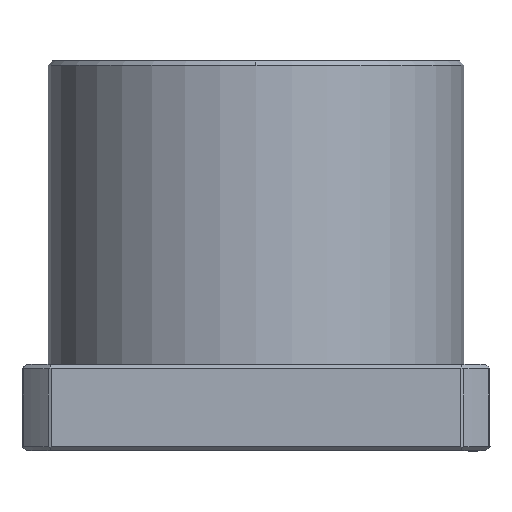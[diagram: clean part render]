
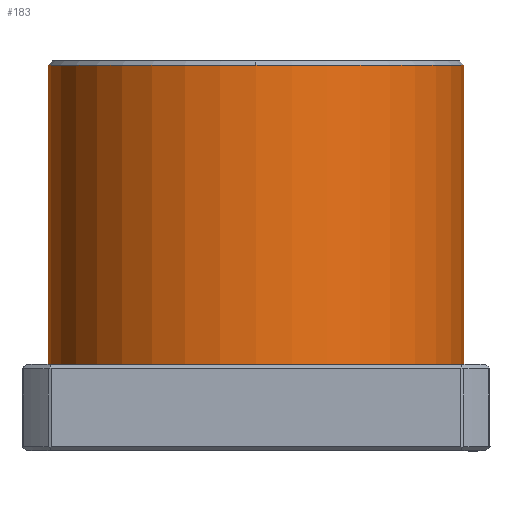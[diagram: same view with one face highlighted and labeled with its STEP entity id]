
A CAD part, left-side view. The second image highlights one B-rep face of the part: STEP entity #183.
In plain terms, the highlighted cylindrical face has radius 24 mm (diameter 48 mm), a partial arc.
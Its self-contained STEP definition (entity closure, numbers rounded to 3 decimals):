
#115 = EDGE_CURVE ( 'NONE', #1123, #131, #1348, .T. ) ;
#123 = VERTEX_POINT ( 'NONE', #1319 ) ;
#124 = EDGE_CURVE ( 'NONE', #1121, #123, #1381, .T. ) ;
#131 = VERTEX_POINT ( 'NONE', #1365 ) ;
#172 = VERTEX_POINT ( 'NONE', #1416 ) ;
#175 = EDGE_CURVE ( 'NONE', #123, #172, #1476, .T. ) ;
#183 = ADVANCED_FACE ( 'NONE', ( #1463 ), #1462, .T. ) ;
#184 = EDGE_LOOP ( 'NONE', ( #185, #186, #236, #237, #238 ) ) ;
#185 = ORIENTED_EDGE ( 'NONE', *, *, #124, .F. ) ;
#186 = ORIENTED_EDGE ( 'NONE', *, *, #187, .T. ) ;
#187 = EDGE_CURVE ( 'NONE', #1121, #1123, #1456, .T. ) ;
#198 = EDGE_CURVE ( 'NONE', #172, #131, #1495, .T. ) ;
#236 = ORIENTED_EDGE ( 'NONE', *, *, #115, .T. ) ;
#237 = ORIENTED_EDGE ( 'NONE', *, *, #198, .F. ) ;
#238 = ORIENTED_EDGE ( 'NONE', *, *, #175, .F. ) ;
#1121 = VERTEX_POINT ( 'NONE', #3054 ) ;
#1123 = VERTEX_POINT ( 'NONE', #3053 ) ;
#1319 = CARTESIAN_POINT ( 'NONE',  ( 0., 24., 44.5 ) ) ;
#1345 = DIRECTION ( 'NONE',  ( 0., 0., 1. ) ) ;
#1346 = VECTOR ( 'NONE', #1345, 1000. ) ;
#1347 = CARTESIAN_POINT ( 'NONE',  ( 0., -24., 10. ) ) ;
#1348 = LINE ( 'NONE', #1347, #1346 ) ;
#1365 = CARTESIAN_POINT ( 'NONE',  ( 0., -24., 44.5 ) ) ;
#1378 = DIRECTION ( 'NONE',  ( 0., 0., 1. ) ) ;
#1379 = VECTOR ( 'NONE', #1378, 1000. ) ;
#1380 = CARTESIAN_POINT ( 'NONE',  ( 0., 24., 10. ) ) ;
#1381 = LINE ( 'NONE', #1380, #1379 ) ;
#1416 = CARTESIAN_POINT ( 'NONE',  ( -24., 0., 44.5 ) ) ;
#1453 = DIRECTION ( 'NONE',  ( 0., -1., 0. ) ) ;
#1454 = DIRECTION ( 'NONE',  ( 0., 0., 1. ) ) ;
#1455 = AXIS2_PLACEMENT_3D ( 'NONE', #1461, #1454, #1453 ) ;
#1456 = CIRCLE ( 'NONE', #1455, 24. ) ;
#1457 = DIRECTION ( 'NONE',  ( 0., -1., 0. ) ) ;
#1458 = DIRECTION ( 'NONE',  ( 0., 0., 1. ) ) ;
#1459 = CARTESIAN_POINT ( 'NONE',  ( 0., 0., 10. ) ) ;
#1460 = AXIS2_PLACEMENT_3D ( 'NONE', #1459, #1458, #1457 ) ;
#1461 = CARTESIAN_POINT ( 'NONE',  ( 0., 0., 10. ) ) ;
#1462 = CYLINDRICAL_SURFACE ( 'NONE', #1460, 24. ) ;
#1463 = FACE_OUTER_BOUND ( 'NONE', #184, .T. ) ;
#1472 = DIRECTION ( 'NONE',  ( -1., 0., 0. ) ) ;
#1473 = DIRECTION ( 'NONE',  ( 0., 0., 1. ) ) ;
#1474 = CARTESIAN_POINT ( 'NONE',  ( 0., 0., 44.5 ) ) ;
#1475 = AXIS2_PLACEMENT_3D ( 'NONE', #1474, #1473, #1472 ) ;
#1476 = CIRCLE ( 'NONE', #1475, 24. ) ;
#1491 = DIRECTION ( 'NONE',  ( -1., 0., 0. ) ) ;
#1492 = DIRECTION ( 'NONE',  ( 0., 0., 1. ) ) ;
#1493 = CARTESIAN_POINT ( 'NONE',  ( 0., 0., 44.5 ) ) ;
#1494 = AXIS2_PLACEMENT_3D ( 'NONE', #1493, #1492, #1491 ) ;
#1495 = CIRCLE ( 'NONE', #1494, 24. ) ;
#3053 = CARTESIAN_POINT ( 'NONE',  ( 0., -24., 10. ) ) ;
#3054 = CARTESIAN_POINT ( 'NONE',  ( 0., 24., 10. ) ) ;
